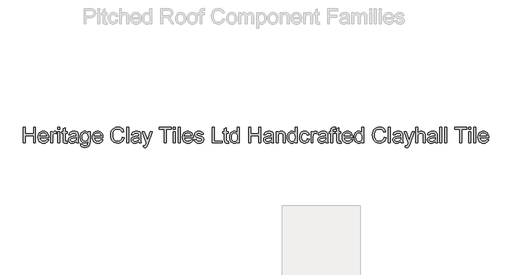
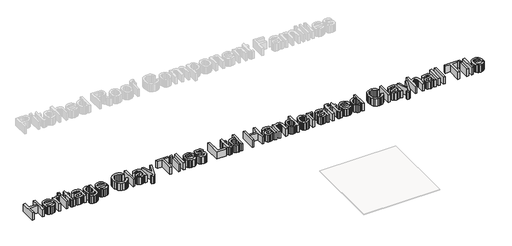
# One storey, part 2 of 3: 1 proxy.
"""IFC4 building model written with IfcOpenShell, lengths in millimetres."""

from ifc_helpers import new_model, si_unit, frame, origin, place, context, project, spatial, polyline, outline, extrude, element, save

model = new_model("IFC4")

# Units and contexts
model_context = context("Model", 3, world=origin())
ifc_project = project(units=[si_unit("LENGTHUNIT", "METRE", prefix="MILLI")], contexts=[model_context])

# Site, building, storey
site = spatial("IfcSite", under=ifc_project)
building = spatial("IfcBuilding", under=site)
storey = spatial("IfcBuildingStorey", under=building, Name="Marley Eternit Clay Plain Tile", Elevation=3000.0)

# Proxy
placement = place(None, origin())
element("IfcBuildingElementProxy", 1, Name="600mm Arial", ObjectType="600mm Arial", at=placement, inside=storey, context=model_context, shape_type="SweptSolid", body=[
    extrude(outline(polyline([(-15828.8297344, 5556.3306719), (-15828.8297344, 5857.6996024), (-15791.1586181, 5857.6996024), (-15791.1586181, 5735.2684744), (-15631.0563738, 5735.2684744), (-15631.0563738, 5857.6996024), (-15593.3852575, 5857.6996024), (-15593.3852575, 5556.3306719), (-15631.0563738, 5556.3306719), (-15631.0563738, 5697.5973581), (-15791.1586181, 5697.5973581), (-15791.1586181, 5556.3306719), (-15828.8297344, 5556.3306719)])), frame((0.0, 0.0, 3000.0), z_axis=(0.0, 0.0, 1.0), x_axis=(1.0, 0.0, 0.0)), (0.0, 0.0, 1.0), 150.0),
    extrude(outline(polyline([(-15377.2177971, 5622.2551255), (-15340.2824448, 5617.5462359), (-15353.5905759, 5589.715963), (-15374.8265641, 5568.9122362), (-15403.5121627, 5555.9443958), (-15439.1691251, 5551.6217824), (-15462.5434273, 5553.4864843), (-15483.3701468, 5559.0805899), (-15501.6492834, 5568.4040992), (-15517.3808372, 5581.4570122), (-15530.0313794, 5597.8760455), (-15539.0674809, 5617.2979156), (-15544.4891418, 5639.7226225), (-15546.2963621, 5665.1501661), (-15544.4707477, 5691.4399332), (-15538.9939045, 5714.6119004), (-15529.8658325, 5734.6660676), (-15517.0865317, 5751.602435), (-15501.3963646, 5765.057719), (-15483.5356937, 5774.6686361), (-15463.5045191, 5780.4351864), (-15441.3028406, 5782.3573698), (-15419.8162329, 5780.4397849), (-15400.3851657, 5774.6870302), (-15383.0096392, 5765.0991057), (-15367.6896534, 5751.6760114), (-15355.1839648, 5734.7764322), (-15346.2513301, 5714.7590532), (-15340.8917493, 5691.6238742), (-15339.1052224, 5665.3708953), (-15339.3259516, 5655.2173522), (-15508.6252458, 5655.2173522), (-15502.1045374, 5627.0191973), (-15486.9569962, 5606.2890469), (-15465.0956087, 5593.5419358), (-15438.4333611, 5589.2928987), (-15418.3837923, 5591.2610674), (-15401.4980088, 5597.1655734), (-15387.7760103, 5607.3742988), (-15377.2177971, 5622.2551255)]), holes=[polyline([(-15508.6252458, 5692.8884686), (-15376.7763387, 5692.8884686), (-15381.8715043, 5712.7908845), (-15391.8595005, 5727.0279177), (-15413.8220556, 5740.2716695), (-15441.4499934, 5744.6862535), (-15466.8430482, 5741.1637834), (-15487.839913, 5730.5963731), (-15502.4356312, 5714.1244567), (-15508.6252458, 5692.8884686)])]), frame((0.0, 0.0, 3000.0), z_axis=(0.0, 0.0, 1.0), x_axis=(1.0, 0.0, 0.0)), (0.0, 0.0, 1.0), 150.0),
    extrude(outline(polyline([(-15301.4341061, 5556.3306719), (-15301.4341061, 5777.6484802), (-15268.4718793, 5777.6484802), (-15268.4718793, 5744.9069827), (-15256.2949853, 5763.8896936), (-15245.0745844, 5775.0733063), (-15233.8173954, 5780.5363539), (-15221.5301367, 5782.3573698), (-15202.768155, 5779.451102), (-15183.7118676, 5770.7322987), (-15196.2934319, 5736.9607316), (-15209.5371837, 5742.754873), (-15222.7809355, 5744.6862535), (-15234.0289275, 5742.8284494), (-15244.081303, 5737.2550372), (-15252.2022981, 5728.3890811), (-15257.6561487, 5716.6536454), (-15262.2362795, 5695.6107953), (-15263.7629898, 5672.6549588), (-15263.7629898, 5556.3306719), (-15301.4341061, 5556.3306719)])), frame((0.0, 0.0, 3000.0), z_axis=(0.0, 0.0, 1.0), x_axis=(1.0, 0.0, 0.0)), (0.0, 0.0, 1.0), 150.0),
    extrude(outline(polyline([(-15160.1674199, 5820.0284861), (-15160.1674199, 5857.6996024), (-15122.4963036, 5857.6996024), (-15122.4963036, 5820.0284861), (-15160.1674199, 5820.0284861)])), frame((0.0, 0.0, 3000.0), z_axis=(0.0, 0.0, 1.0), x_axis=(1.0, 0.0, 0.0)), (0.0, 0.0, 1.0), 150.0),
    extrude(outline(polyline([(-15160.1674199, 5556.3306719), (-15160.1674199, 5777.6484802), (-15122.4963036, 5777.6484802), (-15122.4963036, 5556.3306719), (-15160.1674199, 5556.3306719)])), frame((0.0, 0.0, 3000.0), z_axis=(0.0, 0.0, 1.0), x_axis=(1.0, 0.0, 0.0)), (0.0, 0.0, 1.0), 150.0),
    extrude(outline(polyline([(-14985.938507, 5587.7477943), (-14981.2296175, 5555.227026), (-15009.4093783, 5551.6217824), (-15027.4907784, 5553.1852809), (-15040.9736535, 5557.8757763), (-15050.5017972, 5565.1046575), (-15056.7190029, 5574.2833133), (-15060.1403054, 5590.0470568), (-15061.2807396, 5617.0312011), (-15061.2807396, 5739.9773639), (-15089.5340769, 5739.9773639), (-15089.5340769, 5777.6484802), (-15061.2807396, 5777.6484802), (-15061.2807396, 5831.4328279), (-15023.6096233, 5853.579324), (-15023.6096233, 5777.6484802), (-14985.938507, 5777.6484802), (-14985.938507, 5739.9773639), (-15023.6096233, 5739.9773639), (-15023.6096233, 5618.1348471), (-15021.6230605, 5598.7106778), (-15015.1851256, 5591.8312845), (-15002.346044, 5589.2928987), (-14985.938507, 5587.7477943)])), frame((0.0, 0.0, 3000.0), z_axis=(0.0, 0.0, 1.0), x_axis=(1.0, 0.0, 0.0)), (0.0, 0.0, 1.0), 150.0),
    extrude(outline(polyline([(-14807.0007046, 5584.5840092), (-14824.9993312, 5569.1513595), (-14843.5313867, 5559.0529987), (-14863.0199354, 5553.4795865), (-14883.8880416, 5551.6217824), (-14915.3695433, 5556.0915486), (-14938.5920942, 5569.5008474), (-14952.9119009, 5589.8631158), (-14957.6851698, 5615.1917912), (-14955.882548, 5630.8083819), (-14950.4746827, 5644.9902328), (-14942.1329584, 5657.1303386), (-14931.5287599, 5666.6216941), (-14905.1516209, 5678.9825291), (-14872.5572761, 5684.6479119), (-14834.0400312, 5690.6076002), (-14807.2214338, 5697.5973581), (-14807.0007046, 5705.9850676), (-14809.5942726, 5722.7972748), (-14817.3749768, 5733.7969464), (-14834.7757952, 5741.9639267), (-14859.0192187, 5744.6862535), (-14881.4600204, 5742.8744346), (-14897.1317934, 5737.4389782), (-14907.8187653, 5727.3866026), (-14915.3051639, 5711.7240267), (-14952.9762802, 5716.4329162), (-14946.4371778, 5737.034308), (-14936.6791079, 5753.2211158), (-14922.7915625, 5765.6003449), (-14903.8640339, 5774.7790007), (-14880.7150593, 5780.4627775), (-14854.1631763, 5782.3573698), (-14828.6965452, 5780.6835067), (-14808.5090207, 5775.6619175), (-14793.2879032, 5768.1111395), (-14782.7204929, 5758.8497103), (-14775.7123409, 5747.3993832), (-14771.1689982, 5733.2819116), (-14769.3295883, 5700.3196849), (-14769.3295883, 5653.4515187), (-14767.4166019, 5588.0053117), (-14759.9118092, 5556.3306719), (-14797.5829255, 5556.3306719), (-14807.0007046, 5584.5840092)]), holes=[polyline([(-14807.0007046, 5659.9262418), (-14867.7748102, 5648.3747471), (-14900.1852139, 5642.267906), (-14914.8637055, 5632.3350921), (-14920.0140535, 5617.8405415), (-14917.2089533, 5606.6385348), (-14908.7936526, 5597.459879), (-14894.9520926, 5591.3346438), (-14875.8682141, 5589.2928987), (-14855.6347043, 5591.5461759), (-14837.7556394, 5598.3060076), (-14823.2610887, 5608.2664126), (-14813.1811221, 5620.1214099), (-14808.7113558, 5632.3350921), (-14807.2214338, 5649.2576639), (-14807.0007046, 5659.9262418)])]), frame((0.0, 0.0, 3000.0), z_axis=(0.0, 0.0, 1.0), x_axis=(1.0, 0.0, 0.0)), (0.0, 0.0, 1.0), 150.0),
    extrude(outline(polyline([(-14726.9495824, 5537.4951138), (-14689.2784661, 5532.7862243), (-14685.1213996, 5521.0140004), (-14677.0647839, 5512.9205965), (-14661.227464, 5506.6298144), (-14640.4973135, 5504.532887), (-14618.3876056, 5506.9057259), (-14601.9432805, 5514.0242425), (-14590.5389386, 5525.4285843), (-14583.5491807, 5540.6588989), (-14580.9740067, 5584.5840092), (-14593.5095857, 5572.2231741), (-14607.4982986, 5563.3940062), (-14622.9401453, 5558.0965055), (-14639.835126, 5556.3306719), (-14660.4894007, 5558.3862126), (-14678.6742676, 5564.5528345), (-14694.3897266, 5574.8305378), (-14707.6357777, 5589.2193223), (-14718.1457064, 5606.4821849), (-14725.6527984, 5625.3821224), (-14730.1570536, 5645.9191348), (-14731.658472, 5668.0932221), (-14728.9637363, 5698.507866), (-14720.8795295, 5726.4760947), (-14707.69096, 5750.1768923), (-14689.6831363, 5767.7892428), (-14667.4722608, 5778.715338), (-14641.6745359, 5782.3573698), (-14624.0575869, 5780.2972306), (-14608.0685157, 5774.1168131), (-14593.7073223, 5763.8161172), (-14580.9740067, 5749.395143), (-14580.9740067, 5777.6484802), (-14543.3028904, 5777.6484802), (-14543.3028904, 5586.5705719), (-14545.8780644, 5542.4523237), (-14553.6035863, 5513.3988431), (-14566.9117175, 5494.1310236), (-14586.2347193, 5479.3697586), (-14611.1495274, 5469.9887677), (-14641.2330775, 5466.8617707), (-14676.2830346, 5471.2671576), (-14703.8833813, 5484.4833183), (-14714.2783469, 5494.4046358), (-14721.5877023, 5506.5470409), (-14725.8114475, 5520.9105336), (-14726.9495824, 5537.4951138)]), holes=[polyline([(-14693.9873556, 5670.668396), (-14689.9682448, 5636.1150796), (-14677.9109125, 5612.3590998), (-14659.7835271, 5598.5911161), (-14637.5542576, 5594.0017882), (-14615.4905349, 5598.563525), (-14597.2711791, 5612.2487352), (-14585.0482998, 5635.7012124), (-14580.9740067, 5669.5647501), (-14585.1678615, 5702.2234742), (-14597.7494257, 5725.7403307), (-14616.235496, 5739.9497728), (-14638.1428688, 5744.6862535), (-14659.6547684, 5740.0233492), (-14677.6901833, 5726.0346363), (-14689.9130625, 5702.8672677), (-14693.9873556, 5670.668396)])]), frame((0.0, 0.0, 3000.0), z_axis=(0.0, 0.0, 1.0), x_axis=(1.0, 0.0, 0.0)), (0.0, 0.0, 1.0), 150.0),
    extrude(outline(polyline([(-14331.8443196, 5622.2551255), (-14294.9089673, 5617.5462359), (-14308.2170985, 5589.715963), (-14329.4530866, 5568.9122362), (-14358.1386852, 5555.9443958), (-14393.7956476, 5551.6217824), (-14417.1699498, 5553.4864843), (-14437.9966693, 5559.0805899), (-14456.2758059, 5568.4040992), (-14472.0073598, 5581.4570122), (-14484.6579019, 5597.8760455), (-14493.6940034, 5617.2979156), (-14499.1156643, 5639.7226225), (-14500.9228846, 5665.1501661), (-14499.0972702, 5691.4399332), (-14493.620427, 5714.6119004), (-14484.492355, 5734.6660676), (-14471.7130542, 5751.602435), (-14456.0228871, 5765.057719), (-14438.1622162, 5774.6686361), (-14418.1310416, 5780.4351864), (-14395.9293632, 5782.3573698), (-14374.4427554, 5780.4397849), (-14355.0116882, 5774.6870302), (-14337.6361618, 5765.0991057), (-14322.3161759, 5751.6760114), (-14309.8104873, 5734.7764322), (-14300.8778526, 5714.7590532), (-14295.5182718, 5691.6238742), (-14293.7317449, 5665.3708953), (-14293.9524741, 5655.2173522), (-14463.2517683, 5655.2173522), (-14456.7310599, 5627.0191973), (-14441.5835188, 5606.2890469), (-14419.7221312, 5593.5419358), (-14393.0598836, 5589.2928987), (-14373.0103149, 5591.2610674), (-14356.1245313, 5597.1655734), (-14342.4025329, 5607.3742988), (-14331.8443196, 5622.2551255)]), holes=[polyline([(-14463.2517683, 5692.8884686), (-14331.4028612, 5692.8884686), (-14336.4980268, 5712.7908845), (-14346.486023, 5727.0279177), (-14368.4485781, 5740.2716695), (-14396.0765159, 5744.6862535), (-14421.4695707, 5741.1637834), (-14442.4664355, 5730.5963731), (-14457.0621537, 5714.1244567), (-14463.2517683, 5692.8884686)])]), frame((0.0, 0.0, 3000.0), z_axis=(0.0, 0.0, 1.0), x_axis=(1.0, 0.0, 0.0)), (0.0, 0.0, 1.0), 150.0),
    extrude(outline(polyline([(-13921.7294714, 5663.4579089), (-13884.0583551, 5653.7458243), (-13891.512564, 5630.318639), (-13901.4407793, 5609.8483052), (-13913.8430011, 5592.334823), (-13928.7192293, 5577.7781923), (-13945.7337716, 5566.3347629), (-13964.5509356, 5558.1608849), (-13985.1707214, 5553.256558), (-14007.593129, 5551.6217824), (-14051.288313, 5556.5697952), (-14085.9887822, 5571.4138337), (-14112.5866505, 5595.6388631), (-14131.9740316, 5628.7298486), (-14143.8106348, 5667.6333696), (-14147.7561692, 5709.2960055), (-14143.2956, 5753.2395099), (-14129.9138924, 5791.1865377), (-14108.3100223, 5821.9322754), (-14079.1829653, 5844.2719096), (-14044.638846, 5857.8743463), (-14006.7837887, 5862.4084919), (-13965.4798376, 5856.5407741), (-13947.5111014, 5849.2061268), (-13931.3311914, 5838.9376206), (-13917.2068221, 5826.0065685), (-13905.4047078, 5810.6842834), (-13888.7672446, 5772.8660143), (-13926.4383609, 5763.8896936), (-13939.4981717, 5791.3612816), (-13957.3404485, 5810.2060368), (-13980.1859204, 5821.1045409), (-14008.2553166, 5824.7373756), (-14040.6105381, 5820.7090678), (-14067.1900123, 5808.6241442), (-14087.3591426, 5789.7517979), (-14100.4833328, 5765.3612216), (-14107.6846229, 5737.7884661), (-14110.0850529, 5709.3695819), (-14107.2431645, 5674.5679452), (-14098.7174992, 5644.475198), (-14084.1861604, 5620.2409716), (-14063.3272513, 5603.0148971), (-14038.3204727, 5592.7233983), (-14011.3455254, 5589.2928987), (-13979.9008119, 5593.965), (-13953.6984167, 5607.9813041), (-13933.9155625, 5631.194658), (-13921.7294714, 5663.4579089)])), frame((0.0, 0.0, 3000.0), z_axis=(0.0, 0.0, 1.0), x_axis=(1.0, 0.0, 0.0)), (0.0, 0.0, 1.0), 150.0),
    extrude(outline(polyline([(-13836.9694597, 5556.3306719), (-13836.9694597, 5857.6996024), (-13799.2983434, 5857.6996024), (-13799.2983434, 5556.3306719), (-13836.9694597, 5556.3306719)])), frame((0.0, 0.0, 3000.0), z_axis=(0.0, 0.0, 1.0), x_axis=(1.0, 0.0, 0.0)), (0.0, 0.0, 1.0), 150.0),
    extrude(outline(polyline([(-13601.5249828, 5584.5840092), (-13619.5236094, 5569.1513595), (-13638.0556649, 5559.0529987), (-13657.5442136, 5553.4795865), (-13678.4123198, 5551.6217824), (-13709.8938215, 5556.0915486), (-13733.1163724, 5569.5008474), (-13747.4361791, 5589.8631158), (-13752.209448, 5615.1917912), (-13750.4068262, 5630.8083819), (-13744.9989609, 5644.9902328), (-13736.6572366, 5657.1303386), (-13726.0530381, 5666.6216941), (-13699.6758991, 5678.9825291), (-13667.0815543, 5684.6479119), (-13628.5643094, 5690.6076002), (-13601.745712, 5697.5973581), (-13601.5249828, 5705.9850676), (-13604.1185508, 5722.7972748), (-13611.899255, 5733.7969464), (-13629.3000734, 5741.9639267), (-13653.5434969, 5744.6862535), (-13675.9842986, 5742.8744346), (-13691.6560716, 5737.4389782), (-13702.3430435, 5727.3866026), (-13709.8294421, 5711.7240267), (-13747.5005585, 5716.4329162), (-13740.961456, 5737.034308), (-13731.2033861, 5753.2211158), (-13717.3158407, 5765.6003449), (-13698.3883121, 5774.7790007), (-13675.2393376, 5780.4627775), (-13648.6874545, 5782.3573698), (-13623.2208234, 5780.6835067), (-13603.0332989, 5775.6619175), (-13587.8121814, 5768.1111395), (-13577.2447711, 5758.8497103), (-13570.2366191, 5747.3993832), (-13565.6932764, 5733.2819116), (-13563.8538665, 5700.3196849), (-13563.8538665, 5653.4515187), (-13561.9408801, 5588.0053117), (-13554.4360874, 5556.3306719), (-13592.1072037, 5556.3306719), (-13601.5249828, 5584.5840092)]), holes=[polyline([(-13601.5249828, 5659.9262418), (-13662.2990884, 5648.3747471), (-13694.7094921, 5642.267906), (-13709.3879838, 5632.3350921), (-13714.5383317, 5617.8405415), (-13711.7332315, 5606.6385348), (-13703.3179308, 5597.459879), (-13689.4763708, 5591.3346438), (-13670.3924923, 5589.2928987), (-13650.1589825, 5591.5461759), (-13632.2799176, 5598.3060076), (-13617.785367, 5608.2664126), (-13607.7054003, 5620.1214099), (-13603.235634, 5632.3350921), (-13601.745712, 5649.2576639), (-13601.5249828, 5659.9262418)])]), frame((0.0, 0.0, 3000.0), z_axis=(0.0, 0.0, 1.0), x_axis=(1.0, 0.0, 0.0)), (0.0, 0.0, 1.0), 150.0),
    extrude(outline(polyline([(-13512.0560815, 5471.5706603), (-13516.7649711, 5507.843825), (-13497.6351073, 5504.532887), (-13479.7560424, 5508.6899536), (-13468.7931589, 5520.2782364), (-13458.492463, 5548.0165389), (-13455.5494071, 5557.1400123), (-13535.6005292, 5777.6484802), (-13495.8692738, 5777.6484802), (-13453.4156915, 5654.7758939), (-13438.6268353, 5605.6268593), (-13423.8379791, 5649.0369347), (-13380.2071745, 5777.6484802), (-13340.7702246, 5777.6484802), (-13417.8047144, 5551.0331712), (-13437.8174949, 5501.8841367), (-13448.0630085, 5486.1939696), (-13459.6696854, 5475.3230566), (-13473.1525606, 5468.9770922), (-13489.0266686, 5466.8617707), (-13512.0560815, 5471.5706603)])), frame((0.0, 0.0, 3000.0), z_axis=(0.0, 0.0, 1.0), x_axis=(1.0, 0.0, 0.0)), (0.0, 0.0, 1.0), 150.0),
    extrude(outline(polyline([(-13111.8004708, 5556.3306719), (-13111.8004708, 5820.0284861), (-13210.6871511, 5820.0284861), (-13210.6871511, 5857.6996024), (-12975.2426742, 5857.6996024), (-12975.2426742, 5820.0284861), (-13074.1293545, 5820.0284861), (-13074.1293545, 5556.3306719), (-13111.8004708, 5556.3306719)])), frame((0.0, 0.0, 3000.0), z_axis=(0.0, 0.0, 1.0), x_axis=(1.0, 0.0, 0.0)), (0.0, 0.0, 1.0), 150.0),
    extrude(outline(polyline([(-12937.5715579, 5820.0284861), (-12937.5715579, 5857.6996024), (-12899.9004416, 5857.6996024), (-12899.9004416, 5820.0284861), (-12937.5715579, 5820.0284861)])), frame((0.0, 0.0, 3000.0), z_axis=(0.0, 0.0, 1.0), x_axis=(1.0, 0.0, 0.0)), (0.0, 0.0, 1.0), 150.0),
    extrude(outline(polyline([(-12937.5715579, 5556.3306719), (-12937.5715579, 5777.6484802), (-12899.9004416, 5777.6484802), (-12899.9004416, 5556.3306719), (-12937.5715579, 5556.3306719)])), frame((0.0, 0.0, 3000.0), z_axis=(0.0, 0.0, 1.0), x_axis=(1.0, 0.0, 0.0)), (0.0, 0.0, 1.0), 150.0),
    extrude(outline(polyline([(-12843.3937671, 5556.3306719), (-12843.3937671, 5857.6996024), (-12805.7226508, 5857.6996024), (-12805.7226508, 5556.3306719), (-12843.3937671, 5556.3306719)])), frame((0.0, 0.0, 3000.0), z_axis=(0.0, 0.0, 1.0), x_axis=(1.0, 0.0, 0.0)), (0.0, 0.0, 1.0), 150.0),
    extrude(outline(polyline([(-12594.26408, 5622.2551255), (-12557.3287277, 5617.5462359), (-12570.6368588, 5589.715963), (-12591.872847, 5568.9122362), (-12620.5584456, 5555.9443958), (-12656.215408, 5551.6217824), (-12679.5897102, 5553.4864843), (-12700.4164297, 5559.0805899), (-12718.6955663, 5568.4040992), (-12734.4271201, 5581.4570122), (-12747.0776622, 5597.8760455), (-12756.1137638, 5617.2979156), (-12761.5354247, 5639.7226225), (-12763.342645, 5665.1501661), (-12761.5170306, 5691.4399332), (-12756.0401874, 5714.6119004), (-12746.9121153, 5734.6660676), (-12734.1328145, 5751.602435), (-12718.4426474, 5765.057719), (-12700.5819766, 5774.6686361), (-12680.5508019, 5780.4351864), (-12658.3491235, 5782.3573698), (-12636.8625158, 5780.4397849), (-12617.4314486, 5774.6870302), (-12600.0559221, 5765.0991057), (-12584.7359363, 5751.6760114), (-12572.2302477, 5734.7764322), (-12563.297613, 5714.7590532), (-12557.9380322, 5691.6238742), (-12556.1515053, 5665.3708953), (-12556.3722345, 5655.2173522), (-12725.6715287, 5655.2173522), (-12719.1508203, 5627.0191973), (-12704.0032791, 5606.2890469), (-12682.1418916, 5593.5419358), (-12655.479644, 5589.2928987), (-12635.4300752, 5591.2610674), (-12618.5442917, 5597.1655734), (-12604.8222932, 5607.3742988), (-12594.26408, 5622.2551255)]), holes=[polyline([(-12725.6715287, 5692.8884686), (-12593.8226216, 5692.8884686), (-12598.9177872, 5712.7908845), (-12608.9057834, 5727.0279177), (-12630.8683385, 5740.2716695), (-12658.4962763, 5744.6862535), (-12683.889331, 5741.1637834), (-12704.8861959, 5730.5963731), (-12719.4819141, 5714.1244567), (-12725.6715287, 5692.8884686)])]), frame((0.0, 0.0, 3000.0), z_axis=(0.0, 0.0, 1.0), x_axis=(1.0, 0.0, 0.0)), (0.0, 0.0, 1.0), 150.0),
    extrude(outline(polyline([(-12532.6070576, 5622.2551255), (-12494.9359413, 5626.964015), (-12488.9946471, 5610.8507836), (-12477.4983347, 5599.0049834), (-12460.3734278, 5591.7209199), (-12437.54635, 5589.2928987), (-12414.9951837, 5591.5185848), (-12399.1394697, 5598.195643), (-12389.7584789, 5607.8709395), (-12386.6314819, 5619.0913403), (-12389.776873, 5628.6930604), (-12399.2130461, 5636.0139121), (-12437.9878084, 5646.7560664), (-12494.7152121, 5665.1869543), (-12509.0718069, 5674.4483835), (-12519.4736704, 5686.708051), (-12525.7920436, 5701.1842075), (-12527.898168, 5717.0951038), (-12526.2059109, 5731.690822), (-12521.1291393, 5745.1645001), (-12513.1277059, 5756.9827092), (-12502.6614632, 5766.6120204), (-12478.7123453, 5777.7588448), (-12446.3019415, 5782.3573698), (-12421.7826065, 5780.5087628), (-12400.4638449, 5774.9629417), (-12383.3205439, 5766.2625325), (-12371.3275909, 5754.9501611), (-12363.3813398, 5740.1888961), (-12358.3781447, 5721.1418058), (-12396.049261, 5716.4329162), (-12400.8041358, 5728.2879135), (-12410.2127178, 5737.218249), (-12424.3669776, 5742.8192523), (-12443.3588856, 5744.6862535), (-12464.9903469, 5742.9020258), (-12479.4113211, 5737.5493428), (-12487.5231191, 5729.8238209), (-12490.2270517, 5720.9210766), (-12485.7388914, 5709.9581931), (-12471.6857992, 5701.64406), (-12439.2386072, 5693.6242325), (-12383.9459433, 5675.8923204), (-12369.3410281, 5667.4126404), (-12358.2677801, 5655.8059634), (-12351.2872192, 5641.0355013), (-12348.9603656, 5623.0644659), (-12351.6918894, 5604.4864251), (-12359.8864608, 5587.0120303), (-12373.2313802, 5572.011642), (-12391.4139478, 5560.8556205), (-12413.3765029, 5553.9302419), (-12438.0613848, 5551.6217824), (-12476.0452008, 5556.0731545), (-12503.7651092, 5569.427271), (-12522.2695735, 5591.5369789), (-12532.6070576, 5622.2551255)])), frame((0.0, 0.0, 3000.0), z_axis=(0.0, 0.0, 1.0), x_axis=(1.0, 0.0, 0.0)), (0.0, 0.0, 1.0), 150.0),
    extrude(outline(polyline([(-12184.1492317, 5556.3306719), (-12184.1492317, 5857.6996024), (-12146.4781154, 5857.6996024), (-12146.4781154, 5594.0017882), (-11995.7936502, 5594.0017882), (-11995.7936502, 5556.3306719), (-12184.1492317, 5556.3306719)])), frame((0.0, 0.0, 3000.0), z_axis=(0.0, 0.0, 1.0), x_axis=(1.0, 0.0, 0.0)), (0.0, 0.0, 1.0), 150.0),
    extrude(outline(polyline([(-11878.0714118, 5587.7477943), (-11873.3625222, 5555.227026), (-11901.5422831, 5551.6217824), (-11919.6236831, 5553.1852809), (-11933.1065582, 5557.8757763), (-11942.6347019, 5565.1046575), (-11948.8519076, 5574.2833133), (-11952.2732102, 5590.0470568), (-11953.4136444, 5617.0312011), (-11953.4136444, 5739.9773639), (-11981.6669816, 5739.9773639), (-11981.6669816, 5777.6484802), (-11953.4136444, 5777.6484802), (-11953.4136444, 5831.4328279), (-11915.7425281, 5853.579324), (-11915.7425281, 5777.6484802), (-11878.0714118, 5777.6484802), (-11878.0714118, 5739.9773639), (-11915.7425281, 5739.9773639), (-11915.7425281, 5618.1348471), (-11913.7559653, 5598.7106778), (-11907.3180304, 5591.8312845), (-11894.4789487, 5589.2928987), (-11878.0714118, 5587.7477943)])), frame((0.0, 0.0, 3000.0), z_axis=(0.0, 0.0, 1.0), x_axis=(1.0, 0.0, 0.0)), (0.0, 0.0, 1.0), 150.0),
    extrude(outline(polyline([(-11703.8424988, 5556.3306719), (-11703.8424988, 5591.8680727), (-11715.1134835, 5574.2603207), (-11728.766504, 5561.683355), (-11744.8015605, 5554.1371755), (-11763.2186529, 5551.6217824), (-11787.5724409, 5555.2638142), (-11809.8660899, 5566.1899094), (-11828.7384362, 5583.636713), (-11842.8283166, 5606.8408699), (-11851.6023022, 5634.8642809), (-11854.5269641, 5666.7688469), (-11851.8322285, 5698.2779398), (-11843.7480216, 5726.7336121), (-11830.2835406, 5750.5171831), (-11811.4479824, 5768.009972), (-11788.6668899, 5778.7705203), (-11763.3658057, 5782.3573698), (-11744.9349177, 5779.7913929), (-11728.6377453, 5772.0934621), (-11714.8237764, 5760.2936471), (-11703.8424988, 5745.4220175), (-11703.8424988, 5857.6996024), (-11666.1713825, 5857.6996024), (-11666.1713825, 5556.3306719), (-11703.8424988, 5556.3306719)]), holes=[polyline([(-11816.8558478, 5666.9159997), (-11812.6068107, 5632.8409299), (-11799.8596996, 5608.6067035), (-11781.3368411, 5594.1213499), (-11759.7605621, 5589.2928987), (-11738.1934801, 5593.9006207), (-11720.1396712, 5607.7237867), (-11707.9167919, 5631.019914), (-11703.8424988, 5664.0465201), (-11707.9903683, 5700.154138), (-11720.4339768, 5725.1885077), (-11738.9476382, 5739.811817), (-11761.3056665, 5744.6862535), (-11783.1026747, 5740.0049551), (-11800.9633456, 5725.9610599), (-11812.8827222, 5701.8371981), (-11816.8558478, 5666.9159997)])]), frame((0.0, 0.0, 3000.0), z_axis=(0.0, 0.0, 1.0), x_axis=(1.0, 0.0, 0.0)), (0.0, 0.0, 1.0), 150.0),
    extrude(outline(polyline([(-11487.2335801, 5556.3306719), (-11487.2335801, 5857.6996024), (-11449.5624638, 5857.6996024), (-11449.5624638, 5735.2684744), (-11289.4602195, 5735.2684744), (-11289.4602195, 5857.6996024), (-11251.7891032, 5857.6996024), (-11251.7891032, 5556.3306719), (-11289.4602195, 5556.3306719), (-11289.4602195, 5697.5973581), (-11449.5624638, 5697.5973581), (-11449.5624638, 5556.3306719), (-11487.2335801, 5556.3306719)])), frame((0.0, 0.0, 3000.0), z_axis=(0.0, 0.0, 1.0), x_axis=(1.0, 0.0, 0.0)), (0.0, 0.0, 1.0), 150.0),
    extrude(outline(polyline([(-11049.306853, 5584.5840092), (-11067.3054796, 5569.1513595), (-11085.8375351, 5559.0529987), (-11105.3260838, 5553.4795865), (-11126.19419, 5551.6217824), (-11157.6756918, 5556.0915486), (-11180.8982427, 5569.5008474), (-11195.2180494, 5589.8631158), (-11199.9913183, 5615.1917912), (-11198.1886965, 5630.8083819), (-11192.7808311, 5644.9902328), (-11184.4391069, 5657.1303386), (-11173.8349084, 5666.6216941), (-11147.4577693, 5678.9825291), (-11114.8634246, 5684.6479119), (-11076.3461797, 5690.6076002), (-11049.5275822, 5697.5973581), (-11049.306853, 5705.9850676), (-11051.9004211, 5722.7972748), (-11059.6811253, 5733.7969464), (-11077.0819437, 5741.9639267), (-11101.3253671, 5744.6862535), (-11123.7661689, 5742.8744346), (-11139.4379418, 5737.4389782), (-11150.1249138, 5727.3866026), (-11157.6113124, 5711.7240267), (-11195.2824287, 5716.4329162), (-11188.7433263, 5737.034308), (-11178.9852563, 5753.2211158), (-11165.097711, 5765.6003449), (-11146.1701824, 5774.7790007), (-11123.0212078, 5780.4627775), (-11096.4693248, 5782.3573698), (-11071.0026937, 5780.6835067), (-11050.8151692, 5775.6619175), (-11035.5940517, 5768.1111395), (-11025.0266413, 5758.8497103), (-11018.0184893, 5747.3993832), (-11013.4751467, 5733.2819116), (-11011.6357367, 5700.3196849), (-11011.6357367, 5653.4515187), (-11009.7227503, 5588.0053117), (-11002.2179576, 5556.3306719), (-11039.889074, 5556.3306719), (-11049.306853, 5584.5840092)]), holes=[polyline([(-11049.306853, 5659.9262418), (-11110.0809586, 5648.3747471), (-11142.4913624, 5642.267906), (-11157.169854, 5632.3350921), (-11162.3202019, 5617.8405415), (-11159.5151017, 5606.6385348), (-11151.0998011, 5597.459879), (-11137.258241, 5591.3346438), (-11118.1743625, 5589.2928987), (-11097.9408528, 5591.5461759), (-11080.0617878, 5598.3060076), (-11065.5672372, 5608.2664126), (-11055.4872705, 5620.1214099), (-11051.0175043, 5632.3350921), (-11049.5275822, 5649.2576639), (-11049.306853, 5659.9262418)])]), frame((0.0, 0.0, 3000.0), z_axis=(0.0, 0.0, 1.0), x_axis=(1.0, 0.0, 0.0)), (0.0, 0.0, 1.0), 150.0),
    extrude(outline(polyline([(-10959.8379518, 5556.3306719), (-10959.8379518, 5777.6484802), (-10922.1668355, 5777.6484802), (-10922.1668355, 5746.7463926), (-10909.0794335, 5762.3261951), (-10893.3616753, 5773.4546255), (-10875.0135608, 5780.1316837), (-10854.03509, 5782.3573698), (-10835.4662463, 5780.5639451), (-10818.4609011, 5775.1836709), (-10804.2790501, 5766.8879319), (-10794.1806894, 5756.3481127), (-10782.8867121, 5728.6465985), (-10780.9001493, 5692.226281), (-10780.9001493, 5556.3306719), (-10818.5712657, 5556.3306719), (-10818.5712657, 5687.1495094), (-10822.9122732, 5720.4796182), (-10828.9179468, 5730.403235), (-10838.2529524, 5738.1011658), (-10850.2183143, 5743.0399815), (-10864.1150567, 5744.6862535), (-10886.1787793, 5740.9890394), (-10904.9867463, 5729.8973973), (-10912.5030353, 5720.8429017), (-10917.8718132, 5708.468271), (-10922.1668355, 5673.7586048), (-10922.1668355, 5556.3306719), (-10959.8379518, 5556.3306719)])), frame((0.0, 0.0, 3000.0), z_axis=(0.0, 0.0, 1.0), x_axis=(1.0, 0.0, 0.0)), (0.0, 0.0, 1.0), 150.0),
    extrude(outline(polyline([(-10592.5445678, 5556.3306719), (-10592.5445678, 5591.8680727), (-10603.8155524, 5574.2603207), (-10617.468573, 5561.683355), (-10633.5036295, 5554.1371755), (-10651.9207218, 5551.6217824), (-10676.2745099, 5555.2638142), (-10698.5681588, 5566.1899094), (-10717.4405052, 5583.636713), (-10731.5303856, 5606.8408699), (-10740.3043712, 5634.8642809), (-10743.229033, 5666.7688469), (-10740.5342974, 5698.2779398), (-10732.4500906, 5726.7336121), (-10718.9856096, 5750.5171831), (-10700.1500514, 5768.009972), (-10677.3689589, 5778.7705203), (-10652.0678746, 5782.3573698), (-10633.6369867, 5779.7913929), (-10617.3398143, 5772.0934621), (-10603.5258454, 5760.2936471), (-10592.5445678, 5745.4220175), (-10592.5445678, 5857.6996024), (-10554.8734515, 5857.6996024), (-10554.8734515, 5556.3306719), (-10592.5445678, 5556.3306719)]), holes=[polyline([(-10705.5579167, 5666.9159997), (-10701.3088797, 5632.8409299), (-10688.5617686, 5608.6067035), (-10670.0389101, 5594.1213499), (-10648.4626311, 5589.2928987), (-10626.8955491, 5593.9006207), (-10608.8417402, 5607.7237867), (-10596.6188609, 5631.019914), (-10592.5445678, 5664.0465201), (-10596.6924373, 5700.154138), (-10609.1360458, 5725.1885077), (-10627.6497072, 5739.811817), (-10650.0077355, 5744.6862535), (-10671.8047437, 5740.0049551), (-10689.6654145, 5725.9610599), (-10701.5847912, 5701.8371981), (-10705.5579167, 5666.9159997)])]), frame((0.0, 0.0, 3000.0), z_axis=(0.0, 0.0, 1.0), x_axis=(1.0, 0.0, 0.0)), (0.0, 0.0, 1.0), 150.0),
    extrude(outline(polyline([(-10357.1000909, 5636.3817941), (-10319.4289746, 5631.6729046), (-10329.9320056, 5598.1680518), (-10349.6688746, 5572.8485735), (-10376.7817776, 5556.9284802), (-10409.4129106, 5551.6217824), (-10430.5408335, 5553.4726887), (-10449.4844569, 5559.0254076), (-10466.2437811, 5568.279939), (-10480.8188059, 5581.236283), (-10492.6163216, 5597.6507178), (-10501.0431186, 5617.2795215), (-10506.0991967, 5640.1226941), (-10507.7845561, 5666.1802357), (-10504.9058795, 5699.7034825), (-10496.2698497, 5728.7569631), (-10481.7385109, 5752.2186373), (-10461.1739073, 5768.9664652), (-10436.5717989, 5779.0096436), (-10409.9279454, 5782.3573698), (-10378.0969558, 5777.7588448), (-10352.6487188, 5763.96327), (-10334.3925748, 5741.7064093), (-10324.1378641, 5711.7240267), (-10361.8089804, 5707.0151372), (-10368.6423885, 5723.4502653), (-10379.2833752, 5735.2316862), (-10393.1433294, 5742.3226117), (-10409.6336398, 5744.6862535), (-10433.9782308, 5740.0325462), (-10453.3012326, 5726.0714245), (-10465.910388, 5702.0487302), (-10470.1134398, 5667.2103053), (-10466.0023585, 5631.9028308), (-10453.6691146, 5607.7973631), (-10434.6956007, 5593.9190148), (-10410.6637094, 5589.2928987), (-10391.1567666, 5592.1807724), (-10375.1630969, 5600.8443934), (-10363.5288288, 5615.5044909), (-10357.1000909, 5636.3817941)])), frame((0.0, 0.0, 3000.0), z_axis=(0.0, 0.0, 1.0), x_axis=(1.0, 0.0, 0.0)), (0.0, 0.0, 1.0), 150.0),
    extrude(outline(polyline([(-10286.4667478, 5556.3306719), (-10286.4667478, 5777.6484802), (-10253.5045211, 5777.6484802), (-10253.5045211, 5744.9069827), (-10241.327627, 5763.8896936), (-10230.1072262, 5775.0733063), (-10218.8500371, 5780.5363539), (-10206.5627785, 5782.3573698), (-10187.8007967, 5779.451102), (-10168.7445094, 5770.7322987), (-10181.3260736, 5736.9607316), (-10194.5698254, 5742.754873), (-10207.8135773, 5744.6862535), (-10219.0615693, 5742.8284494), (-10229.1139448, 5737.2550372), (-10237.2349398, 5728.3890811), (-10242.6887904, 5716.6536454), (-10247.2689212, 5695.6107953), (-10248.7956315, 5672.6549588), (-10248.7956315, 5556.3306719), (-10286.4667478, 5556.3306719)])), frame((0.0, 0.0, 3000.0), z_axis=(0.0, 0.0, 1.0), x_axis=(1.0, 0.0, 0.0)), (0.0, 0.0, 1.0), 150.0),
    extrude(outline(polyline([(-10003.9333755, 5584.5840092), (-10021.9320021, 5569.1513595), (-10040.4640577, 5559.0529987), (-10059.9526063, 5553.4795865), (-10080.8207125, 5551.6217824), (-10112.3022143, 5556.0915486), (-10135.5247652, 5569.5008474), (-10149.8445719, 5589.8631158), (-10154.6178408, 5615.1917912), (-10152.815219, 5630.8083819), (-10147.4073537, 5644.9902328), (-10139.0656294, 5657.1303386), (-10128.4614309, 5666.6216941), (-10102.0842918, 5678.9825291), (-10069.4899471, 5684.6479119), (-10030.9727022, 5690.6076002), (-10004.1541047, 5697.5973581), (-10003.9333755, 5705.9850676), (-10006.5269436, 5722.7972748), (-10014.3076478, 5733.7969464), (-10031.7084662, 5741.9639267), (-10055.9518897, 5744.6862535), (-10078.3926914, 5742.8744346), (-10094.0644644, 5737.4389782), (-10104.7514363, 5727.3866026), (-10112.2378349, 5711.7240267), (-10149.9089512, 5716.4329162), (-10143.3698488, 5737.034308), (-10133.6117788, 5753.2211158), (-10119.7242335, 5765.6003449), (-10100.7967049, 5774.7790007), (-10077.6477303, 5780.4627775), (-10051.0958473, 5782.3573698), (-10025.6292162, 5780.6835067), (-10005.4416917, 5775.6619175), (-9990.2205742, 5768.1111395), (-9979.6531639, 5758.8497103), (-9972.6450118, 5747.3993832), (-9968.1016692, 5733.2819116), (-9966.2622592, 5700.3196849), (-9966.2622592, 5653.4515187), (-9964.3492729, 5588.0053117), (-9956.8444802, 5556.3306719), (-9994.5155965, 5556.3306719), (-10003.9333755, 5584.5840092)]), holes=[polyline([(-10003.9333755, 5659.9262418), (-10064.7074811, 5648.3747471), (-10097.1178849, 5642.267906), (-10111.7963765, 5632.3350921), (-10116.9467245, 5617.8405415), (-10114.1416242, 5606.6385348), (-10105.7263236, 5597.459879), (-10091.8847635, 5591.3346438), (-10072.800885, 5589.2928987), (-10052.5673753, 5591.5461759), (-10034.6883103, 5598.3060076), (-10020.1937597, 5608.2664126), (-10010.1137931, 5620.1214099), (-10005.6440268, 5632.3350921), (-10004.1541047, 5649.2576639), (-10003.9333755, 5659.9262418)])]), frame((0.0, 0.0, 3000.0), z_axis=(0.0, 0.0, 1.0), x_axis=(1.0, 0.0, 0.0)), (0.0, 0.0, 1.0), 150.0),
    extrude(outline(polyline([(-9905.0466952, 5556.3306719), (-9905.0466952, 5739.9773639), (-9938.008922, 5739.9773639), (-9938.008922, 5777.6484802), (-9905.0466952, 5777.6484802), (-9905.0466952, 5799.9421291), (-9901.0735697, 5831.3592515), (-9893.4952006, 5843.8856335), (-9881.7965531, 5853.8000532), (-9865.4258044, 5860.2563823), (-9843.8311312, 5862.4084919), (-9809.4709529, 5858.2882136), (-9814.9891828, 5822.971542), (-9836.6942205, 5824.7373756), (-9851.0140272, 5823.1738771), (-9860.4226092, 5818.4833817), (-9865.6373365, 5809.5254551), (-9867.3755789, 5795.1596632), (-9867.3755789, 5777.6484802), (-9824.9955731, 5777.6484802), (-9824.9955731, 5739.9773639), (-9867.3755789, 5739.9773639), (-9867.3755789, 5556.3306719), (-9905.0466952, 5556.3306719)])), frame((0.0, 0.0, 3000.0), z_axis=(0.0, 0.0, 1.0), x_axis=(1.0, 0.0, 0.0)), (0.0, 0.0, 1.0), 150.0),
    extrude(outline(polyline([(-9711.9822242, 5587.7477943), (-9707.2733346, 5555.227026), (-9735.4530955, 5551.6217824), (-9753.5344955, 5553.1852809), (-9767.0173706, 5557.8757763), (-9776.5455143, 5565.1046575), (-9782.76272, 5574.2833133), (-9786.1840226, 5590.0470568), (-9787.3244568, 5617.0312011), (-9787.3244568, 5739.9773639), (-9815.577794, 5739.9773639), (-9815.577794, 5777.6484802), (-9787.3244568, 5777.6484802), (-9787.3244568, 5831.4328279), (-9749.6533405, 5853.579324), (-9749.6533405, 5777.6484802), (-9711.9822242, 5777.6484802), (-9711.9822242, 5739.9773639), (-9749.6533405, 5739.9773639), (-9749.6533405, 5618.1348471), (-9747.6667777, 5598.7106778), (-9741.2288428, 5591.8312845), (-9728.3897611, 5589.2928987), (-9711.9822242, 5587.7477943)])), frame((0.0, 0.0, 3000.0), z_axis=(0.0, 0.0, 1.0), x_axis=(1.0, 0.0, 0.0)), (0.0, 0.0, 1.0), 150.0),
    extrude(outline(polyline([(-9519.3592115, 5622.2551255), (-9482.4238592, 5617.5462359), (-9495.7319903, 5589.715963), (-9516.9679785, 5568.9122362), (-9545.6535771, 5555.9443958), (-9581.3105395, 5551.6217824), (-9604.6848417, 5553.4864843), (-9625.5115612, 5559.0805899), (-9643.7906978, 5568.4040992), (-9659.5222516, 5581.4570122), (-9672.1727938, 5597.8760455), (-9681.2088953, 5617.2979156), (-9686.6305562, 5639.7226225), (-9688.4377765, 5665.1501661), (-9686.6121621, 5691.4399332), (-9681.1353189, 5714.6119004), (-9672.0072469, 5734.6660676), (-9659.2279461, 5751.602435), (-9643.537779, 5765.057719), (-9625.6771081, 5774.6686361), (-9605.6459335, 5780.4351864), (-9583.444255, 5782.3573698), (-9561.9576473, 5780.4397849), (-9542.5265801, 5774.6870302), (-9525.1510536, 5765.0991057), (-9509.8310678, 5751.6760114), (-9497.3253792, 5734.7764322), (-9488.3927445, 5714.7590532), (-9483.0331637, 5691.6238742), (-9481.2466368, 5665.3708953), (-9481.467366, 5655.2173522), (-9650.7666602, 5655.2173522), (-9644.2459518, 5627.0191973), (-9629.0984106, 5606.2890469), (-9607.2370231, 5593.5419358), (-9580.5747755, 5589.2928987), (-9560.5252067, 5591.2610674), (-9543.6394232, 5597.1655734), (-9529.9174247, 5607.3742988), (-9519.3592115, 5622.2551255)]), holes=[polyline([(-9650.7666602, 5692.8884686), (-9518.9177531, 5692.8884686), (-9524.0129187, 5712.7908845), (-9534.0009149, 5727.0279177), (-9555.96347, 5740.2716695), (-9583.5914078, 5744.6862535), (-9608.9844626, 5741.1637834), (-9629.9813274, 5730.5963731), (-9644.5770456, 5714.1244567), (-9650.7666602, 5692.8884686)])]), frame((0.0, 0.0, 3000.0), z_axis=(0.0, 0.0, 1.0), x_axis=(1.0, 0.0, 0.0)), (0.0, 0.0, 1.0), 150.0),
    extrude(outline(polyline([(-9307.0177239, 5556.3306719), (-9307.0177239, 5591.8680727), (-9318.2887085, 5574.2603207), (-9331.941729, 5561.683355), (-9347.9767855, 5554.1371755), (-9366.3938779, 5551.6217824), (-9390.747666, 5555.2638142), (-9413.0413149, 5566.1899094), (-9431.9136612, 5583.636713), (-9446.0035416, 5606.8408699), (-9454.7775272, 5634.8642809), (-9457.7021891, 5666.7688469), (-9455.0074535, 5698.2779398), (-9446.9232466, 5726.7336121), (-9433.4587656, 5750.5171831), (-9414.6232075, 5768.009972), (-9391.8421149, 5778.7705203), (-9366.5410307, 5782.3573698), (-9348.1101427, 5779.7913929), (-9331.8129703, 5772.0934621), (-9317.9990014, 5760.2936471), (-9307.0177239, 5745.4220175), (-9307.0177239, 5857.6996024), (-9269.3466076, 5857.6996024), (-9269.3466076, 5556.3306719), (-9307.0177239, 5556.3306719)]), holes=[polyline([(-9420.0310728, 5666.9159997), (-9415.7820357, 5632.8409299), (-9403.0349246, 5608.6067035), (-9384.5120662, 5594.1213499), (-9362.9357871, 5589.2928987), (-9341.3687052, 5593.9006207), (-9323.3148963, 5607.7237867), (-9311.092017, 5631.019914), (-9307.0177239, 5664.0465201), (-9311.1655934, 5700.154138), (-9323.6092019, 5725.1885077), (-9342.1228633, 5739.811817), (-9364.4808915, 5744.6862535), (-9386.2778997, 5740.0049551), (-9404.1385706, 5725.9610599), (-9416.0579472, 5701.8371981), (-9420.0310728, 5666.9159997)])]), frame((0.0, 0.0, 3000.0), z_axis=(0.0, 0.0, 1.0), x_axis=(1.0, 0.0, 0.0)), (0.0, 0.0, 1.0), 150.0),
    extrude(outline(polyline([(-8878.5087759, 5663.4579089), (-8840.8376596, 5653.7458243), (-8848.2918685, 5630.318639), (-8858.2200839, 5609.8483052), (-8870.6223056, 5592.334823), (-8885.4985338, 5577.7781923), (-8902.5130761, 5566.3347629), (-8921.3302401, 5558.1608849), (-8941.950026, 5553.256558), (-8964.3724336, 5551.6217824), (-9008.0676175, 5556.5697952), (-9042.7680867, 5571.4138337), (-9069.365955, 5595.6388631), (-9088.7533361, 5628.7298486), (-9100.5899393, 5667.6333696), (-9104.5354737, 5709.2960055), (-9100.0749045, 5753.2395099), (-9086.693197, 5791.1865377), (-9065.0893268, 5821.9322754), (-9035.9622698, 5844.2719096), (-9001.4181505, 5857.8743463), (-8963.5630932, 5862.4084919), (-8922.2591422, 5856.5407741), (-8904.290406, 5849.2061268), (-8888.110496, 5838.9376206), (-8873.9861266, 5826.0065685), (-8862.1840124, 5810.6842834), (-8845.5465491, 5772.8660143), (-8883.2176654, 5763.8896936), (-8896.2774763, 5791.3612816), (-8914.119753, 5810.2060368), (-8936.9652249, 5821.1045409), (-8965.0346212, 5824.7373756), (-8997.3898426, 5820.7090678), (-9023.9693168, 5808.6241442), (-9044.1384472, 5789.7517979), (-9057.2626373, 5765.3612216), (-9064.4639274, 5737.7884661), (-9066.8643574, 5709.3695819), (-9064.022469, 5674.5679452), (-9055.4968038, 5644.475198), (-9040.965465, 5620.2409716), (-9020.1065558, 5603.0148971), (-8995.0997772, 5592.7233983), (-8968.1248299, 5589.2928987), (-8936.6801164, 5593.965), (-8910.4777213, 5607.9813041), (-8890.694867, 5631.194658), (-8878.5087759, 5663.4579089)])), frame((0.0, 0.0, 3000.0), z_axis=(0.0, 0.0, 1.0), x_axis=(1.0, 0.0, 0.0)), (0.0, 0.0, 1.0), 150.0),
    extrude(outline(polyline([(-8793.7487642, 5556.3306719), (-8793.7487642, 5857.6996024), (-8756.0776479, 5857.6996024), (-8756.0776479, 5556.3306719), (-8793.7487642, 5556.3306719)])), frame((0.0, 0.0, 3000.0), z_axis=(0.0, 0.0, 1.0), x_axis=(1.0, 0.0, 0.0)), (0.0, 0.0, 1.0), 150.0),
    extrude(outline(polyline([(-8558.3042873, 5584.5840092), (-8576.3029139, 5569.1513595), (-8594.8349694, 5559.0529987), (-8614.3235181, 5553.4795865), (-8635.1916243, 5551.6217824), (-8666.673126, 5556.0915486), (-8689.895677, 5569.5008474), (-8704.2154836, 5589.8631158), (-8708.9887525, 5615.1917912), (-8707.1861307, 5630.8083819), (-8701.7782654, 5644.9902328), (-8693.4365412, 5657.1303386), (-8682.8323427, 5666.6216941), (-8656.4552036, 5678.9825291), (-8623.8608588, 5684.6479119), (-8585.3436139, 5690.6076002), (-8558.5250165, 5697.5973581), (-8558.3042873, 5705.9850676), (-8560.8978554, 5722.7972748), (-8568.6785596, 5733.7969464), (-8586.0793779, 5741.9639267), (-8610.3228014, 5744.6862535), (-8632.7636031, 5742.8744346), (-8648.4353761, 5737.4389782), (-8659.1223481, 5727.3866026), (-8666.6087467, 5711.7240267), (-8704.279863, 5716.4329162), (-8697.7407605, 5737.034308), (-8687.9826906, 5753.2211158), (-8674.0951453, 5765.6003449), (-8655.1676166, 5774.7790007), (-8632.0186421, 5780.4627775), (-8605.4667591, 5782.3573698), (-8580.000128, 5780.6835067), (-8559.8126035, 5775.6619175), (-8544.5914859, 5768.1111395), (-8534.0240756, 5758.8497103), (-8527.0159236, 5747.3993832), (-8522.472581, 5733.2819116), (-8520.633171, 5700.3196849), (-8520.633171, 5653.4515187), (-8518.7201846, 5588.0053117), (-8511.2153919, 5556.3306719), (-8548.8865082, 5556.3306719), (-8558.3042873, 5584.5840092)]), holes=[polyline([(-8558.3042873, 5659.9262418), (-8619.0783929, 5648.3747471), (-8651.4887967, 5642.267906), (-8666.1672883, 5632.3350921), (-8671.3176362, 5617.8405415), (-8668.512536, 5606.6385348), (-8660.0972354, 5597.459879), (-8646.2556753, 5591.3346438), (-8627.1717968, 5589.2928987), (-8606.938287, 5591.5461759), (-8589.0592221, 5598.3060076), (-8574.5646715, 5608.2664126), (-8564.4847048, 5620.1214099), (-8560.0149386, 5632.3350921), (-8558.5250165, 5649.2576639), (-8558.3042873, 5659.9262418)])]), frame((0.0, 0.0, 3000.0), z_axis=(0.0, 0.0, 1.0), x_axis=(1.0, 0.0, 0.0)), (0.0, 0.0, 1.0), 150.0),
    extrude(outline(polyline([(-8468.8353861, 5471.5706603), (-8473.5442756, 5507.843825), (-8454.4144118, 5504.532887), (-8436.5353469, 5508.6899536), (-8425.5724634, 5520.2782364), (-8415.2717676, 5548.0165389), (-8412.3287116, 5557.1400123), (-8492.3798338, 5777.6484802), (-8452.6485783, 5777.6484802), (-8410.194996, 5654.7758939), (-8395.4061398, 5605.6268593), (-8380.6172836, 5649.0369347), (-8336.986479, 5777.6484802), (-8297.5495291, 5777.6484802), (-8374.5840189, 5551.0331712), (-8394.5967994, 5501.8841367), (-8404.842313, 5486.1939696), (-8416.4489899, 5475.3230566), (-8429.9318651, 5468.9770922), (-8445.8059732, 5466.8617707), (-8468.8353861, 5471.5706603)])), frame((0.0, 0.0, 3000.0), z_axis=(0.0, 0.0, 1.0), x_axis=(1.0, 0.0, 0.0)), (0.0, 0.0, 1.0), 150.0),
    extrude(outline(polyline([(-8266.3531359, 5556.3306719), (-8266.3531359, 5857.6996024), (-8228.6820196, 5857.6996024), (-8228.6820196, 5746.8935454), (-8214.8450581, 5762.4089686), (-8199.3066423, 5773.4914137), (-8182.0667723, 5780.1408808), (-8163.1254481, 5782.3573698), (-8140.3719467, 5779.9385457), (-8120.8190186, 5772.6820733), (-8105.4231571, 5761.1581698), (-8095.1408554, 5745.9370523), (-8089.3467139, 5725.0229608), (-8087.4153335, 5696.4201357), (-8087.4153335, 5556.3306719), (-8125.0864498, 5556.3306719), (-8125.0864498, 5692.5205866), (-8128.084688, 5716.1018224), (-8137.0794028, 5732.251842), (-8151.5739534, 5741.5776506), (-8171.0716992, 5744.6862535), (-8186.9917925, 5742.5893261), (-8201.9369986, 5736.298544), (-8214.3162277, 5726.4209124), (-8222.5383903, 5713.5634367), (-8227.1461123, 5696.475318), (-8228.6820196, 5673.9057576), (-8228.6820196, 5556.3306719), (-8266.3531359, 5556.3306719)])), frame((0.0, 0.0, 3000.0), z_axis=(0.0, 0.0, 1.0), x_axis=(1.0, 0.0, 0.0)), (0.0, 0.0, 1.0), 150.0),
    extrude(outline(polyline([(-7894.3508624, 5584.5840092), (-7912.349489, 5569.1513595), (-7930.8815445, 5559.0529987), (-7950.3700932, 5553.4795865), (-7971.2381994, 5551.6217824), (-8002.7197011, 5556.0915486), (-8025.9422521, 5569.5008474), (-8040.2620587, 5589.8631158), (-8045.0353276, 5615.1917912), (-8043.2327058, 5630.8083819), (-8037.8248405, 5644.9902328), (-8029.4831163, 5657.1303386), (-8018.8789178, 5666.6216941), (-7992.5017787, 5678.9825291), (-7959.9074339, 5684.6479119), (-7921.390189, 5690.6076002), (-7894.5715916, 5697.5973581), (-7894.3508624, 5705.9850676), (-7896.9444305, 5722.7972748), (-7904.7251347, 5733.7969464), (-7922.125953, 5741.9639267), (-7946.3693765, 5744.6862535), (-7968.8101782, 5742.8744346), (-7984.4819512, 5737.4389782), (-7995.1689232, 5727.3866026), (-8002.6553218, 5711.7240267), (-8040.3264381, 5716.4329162), (-8033.7873356, 5737.034308), (-8024.0292657, 5753.2211158), (-8010.1417204, 5765.6003449), (-7991.2141917, 5774.7790007), (-7968.0652172, 5780.4627775), (-7941.5133342, 5782.3573698), (-7916.0467031, 5780.6835067), (-7895.8591786, 5775.6619175), (-7880.638061, 5768.1111395), (-7870.0706507, 5758.8497103), (-7863.0624987, 5747.3993832), (-7858.5191561, 5733.2819116), (-7856.6797461, 5700.3196849), (-7856.6797461, 5653.4515187), (-7854.7667597, 5588.0053117), (-7847.261967, 5556.3306719), (-7884.9330833, 5556.3306719), (-7894.3508624, 5584.5840092)]), holes=[polyline([(-7894.3508624, 5659.9262418), (-7955.124968, 5648.3747471), (-7987.5353718, 5642.267906), (-8002.2138634, 5632.3350921), (-8007.3642113, 5617.8405415), (-8004.5591111, 5606.6385348), (-7996.1438105, 5597.459879), (-7982.3022504, 5591.3346438), (-7963.2183719, 5589.2928987), (-7942.9848622, 5591.5461759), (-7925.1057972, 5598.3060076), (-7910.6112466, 5608.2664126), (-7900.5312799, 5620.1214099), (-7896.0615137, 5632.3350921), (-7894.5715916, 5649.2576639), (-7894.3508624, 5659.9262418)])]), frame((0.0, 0.0, 3000.0), z_axis=(0.0, 0.0, 1.0), x_axis=(1.0, 0.0, 0.0)), (0.0, 0.0, 1.0), 150.0),
    extrude(outline(polyline([(-7804.8819612, 5556.3306719), (-7804.8819612, 5857.6996024), (-7767.2108449, 5857.6996024), (-7767.2108449, 5556.3306719), (-7804.8819612, 5556.3306719)])), frame((0.0, 0.0, 3000.0), z_axis=(0.0, 0.0, 1.0), x_axis=(1.0, 0.0, 0.0)), (0.0, 0.0, 1.0), 150.0),
    extrude(outline(polyline([(-7710.7041704, 5556.3306719), (-7710.7041704, 5857.6996024), (-7673.0330541, 5857.6996024), (-7673.0330541, 5556.3306719), (-7710.7041704, 5556.3306719)])), frame((0.0, 0.0, 3000.0), z_axis=(0.0, 0.0, 1.0), x_axis=(1.0, 0.0, 0.0)), (0.0, 0.0, 1.0), 150.0),
    extrude(outline(polyline([(-7418.753019, 5556.3306719), (-7418.753019, 5820.0284861), (-7517.6396993, 5820.0284861), (-7517.6396993, 5857.6996024), (-7282.1952224, 5857.6996024), (-7282.1952224, 5820.0284861), (-7381.0819027, 5820.0284861), (-7381.0819027, 5556.3306719), (-7418.753019, 5556.3306719)])), frame((0.0, 0.0, 3000.0), z_axis=(0.0, 0.0, 1.0), x_axis=(1.0, 0.0, 0.0)), (0.0, 0.0, 1.0), 150.0),
    extrude(outline(polyline([(-7244.5241061, 5820.0284861), (-7244.5241061, 5857.6996024), (-7206.8529898, 5857.6996024), (-7206.8529898, 5820.0284861), (-7244.5241061, 5820.0284861)])), frame((0.0, 0.0, 3000.0), z_axis=(0.0, 0.0, 1.0), x_axis=(1.0, 0.0, 0.0)), (0.0, 0.0, 1.0), 150.0),
    extrude(outline(polyline([(-7244.5241061, 5556.3306719), (-7244.5241061, 5777.6484802), (-7206.8529898, 5777.6484802), (-7206.8529898, 5556.3306719), (-7244.5241061, 5556.3306719)])), frame((0.0, 0.0, 3000.0), z_axis=(0.0, 0.0, 1.0), x_axis=(1.0, 0.0, 0.0)), (0.0, 0.0, 1.0), 150.0),
    extrude(outline(polyline([(-7150.3463153, 5556.3306719), (-7150.3463153, 5857.6996024), (-7112.675199, 5857.6996024), (-7112.675199, 5556.3306719), (-7150.3463153, 5556.3306719)])), frame((0.0, 0.0, 3000.0), z_axis=(0.0, 0.0, 1.0), x_axis=(1.0, 0.0, 0.0)), (0.0, 0.0, 1.0), 150.0),
    extrude(outline(polyline([(-6901.2166282, 5622.2551255), (-6864.2812759, 5617.5462359), (-6877.5894071, 5589.715963), (-6898.8253952, 5568.9122362), (-6927.5109938, 5555.9443958), (-6963.1679562, 5551.6217824), (-6986.5422585, 5553.4864843), (-7007.3689779, 5559.0805899), (-7025.6481146, 5568.4040992), (-7041.3796684, 5581.4570122), (-7054.0302105, 5597.8760455), (-7063.066312, 5617.2979156), (-7068.4879729, 5639.7226225), (-7070.2951932, 5665.1501661), (-7068.4695788, 5691.4399332), (-7062.9927356, 5714.6119004), (-7053.8646636, 5734.6660676), (-7041.0853628, 5751.602435), (-7025.3951957, 5765.057719), (-7007.5345248, 5774.6686361), (-6987.5033502, 5780.4351864), (-6965.3016718, 5782.3573698), (-6943.815064, 5780.4397849), (-6924.3839969, 5774.6870302), (-6907.0084704, 5765.0991057), (-6891.6884845, 5751.6760114), (-6879.182796, 5734.7764322), (-6870.2501613, 5714.7590532), (-6864.8905805, 5691.6238742), (-6863.1040535, 5665.3708953), (-6863.3247827, 5655.2173522), (-7032.6240769, 5655.2173522), (-7026.1033685, 5627.0191973), (-7010.9558274, 5606.2890469), (-6989.0944398, 5593.5419358), (-6962.4321922, 5589.2928987), (-6942.3826235, 5591.2610674), (-6925.4968399, 5597.1655734), (-6911.7748415, 5607.3742988), (-6901.2166282, 5622.2551255)]), holes=[polyline([(-7032.6240769, 5692.8884686), (-6900.7751698, 5692.8884686), (-6905.8703355, 5712.7908845), (-6915.8583316, 5727.0279177), (-6937.8208867, 5740.2716695), (-6965.4488246, 5744.6862535), (-6990.8418793, 5741.1637834), (-7011.8387442, 5730.5963731), (-7026.4344623, 5714.1244567), (-7032.6240769, 5692.8884686)])]), frame((0.0, 0.0, 3000.0), z_axis=(0.0, 0.0, 1.0), x_axis=(1.0, 0.0, 0.0)), (0.0, 0.0, 1.0), 150.0),
])

save(model, "model.ifc")
